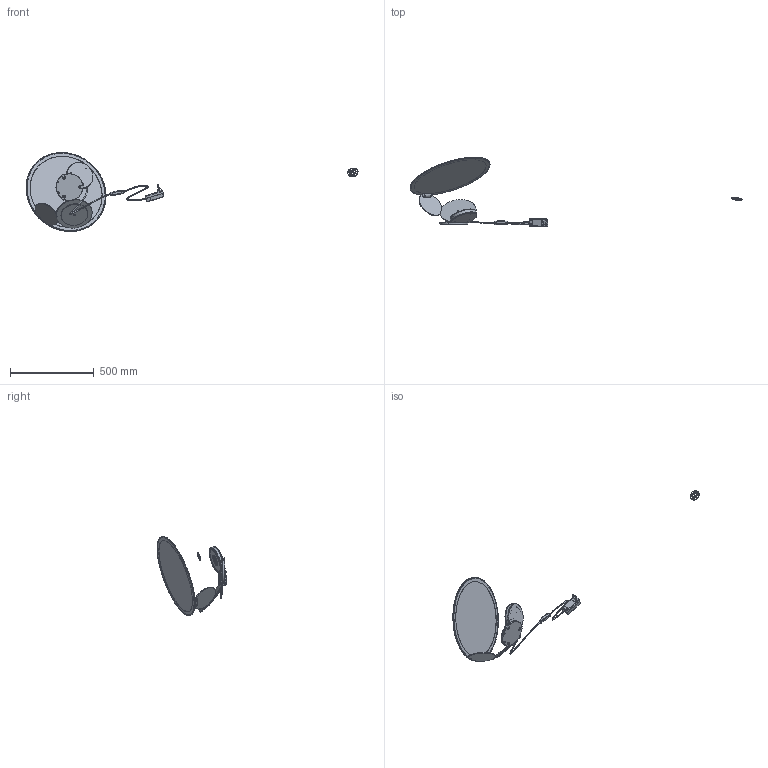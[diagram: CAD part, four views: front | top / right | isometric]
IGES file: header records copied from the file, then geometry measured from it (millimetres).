
Start section: SolidWorks IGES file using analytic representation for surfaces
Global section: file name: D:\OneDrive\Projects\AXO067 CUT II\DRAW\3D\STEP-IGES\CUT-TABLE_2.IGS; native system: SolidWorks 2019; preprocessor: SolidWorks 2019; author: tecnico8; date: 190725.162650; units: millimetre
Bounding box: 1980.56 x 416.33 x 472.07 mm (x, y, z)
Surface area: 1027376.7 mm2 (no closed solid volume)
Topology: 0 solids, 0 shells, 871 faces, 13394 edges, 13370 vertices
Faces by surface type: revolution 492, bspline 379
